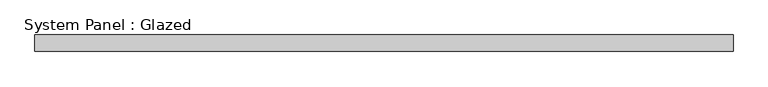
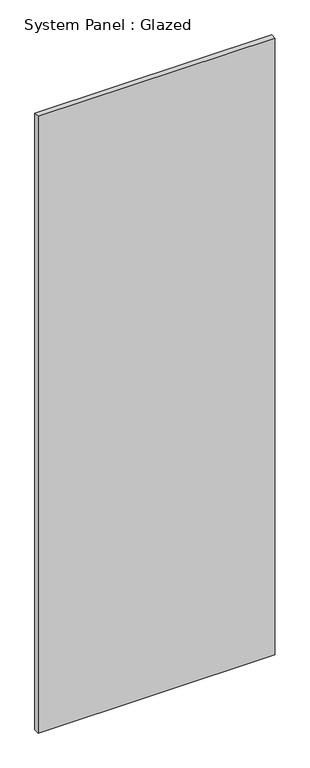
"""IFC4 building model written with IfcOpenShell, lengths in millimetres: plate geometry, System Panel : Glazed."""

from ifc_helpers import new_model, si_unit, origin, origin_with_axes, place, context, project, spatial, polyline, outline, extrude, source, transform, mapped, element, save


def system_panel_glazed_ac5b5eb3(model_context):
    return source(origin(), model_context, "Body", "SweptSolid", [
        extrude(outline(polyline([(530.9999999, -49.5), (-530.9999999, -49.5), (-530.9999999, -24.5), (530.9999999, -24.5), (530.9999999, -49.5)])), origin_with_axes(), (0.0, 0.0, 1.0), 2925.0),
    ])


if __name__ == "__main__":
    model = new_model("IFC4")
    model_context = context("Model", 3, world=origin())
    ifc_project = project(units=[si_unit("LENGTHUNIT", "METRE", prefix="MILLI")], contexts=[model_context])
    site = spatial("IfcSite", under=ifc_project)
    building = spatial("IfcBuilding", under=site)
    placement = place(None, origin())
    system_panel_glazed_shape = system_panel_glazed_ac5b5eb3(model_context)
    element("IfcPlate", 1, ObjectType="System Panel : Glazed", at=placement, inside=building, context=model_context, shape_type="MappedRepresentation", body=[
        mapped(system_panel_glazed_shape, transform((0.0, 0.0, 0.0), x_axis=(1.0, 0.0, 0.0), y_axis=(0.0, 1.0, 0.0), z_axis=(0.0, 0.0, 1.0))),
    ])
    save(model, "model.ifc")
